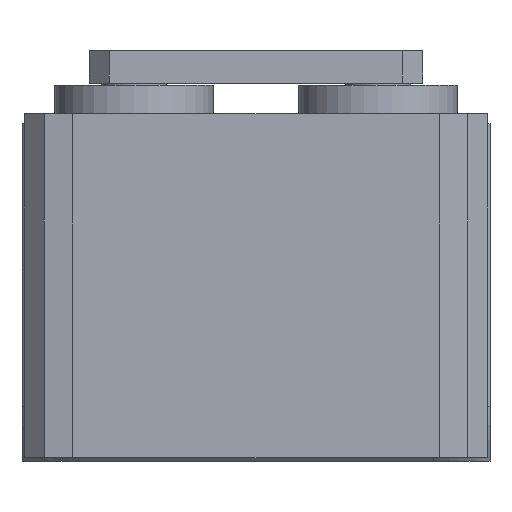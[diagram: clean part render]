
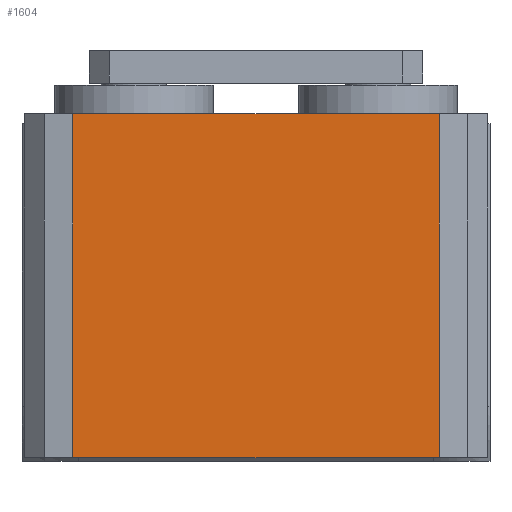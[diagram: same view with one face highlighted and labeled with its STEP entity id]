
A CAD part, top view. The second image highlights one B-rep face of the part: STEP entity #1604.
In plain terms, the highlighted planar face has unit normal (0, 0, 1).
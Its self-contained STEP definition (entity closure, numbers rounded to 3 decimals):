
#68=LINE('',#2359,#224);
#80=LINE('',#2390,#236);
#81=LINE('',#2392,#237);
#82=LINE('',#2393,#238);
#224=VECTOR('',#1918,90.);
#236=VECTOR('',#1944,84.5);
#237=VECTOR('',#1945,90.);
#238=VECTOR('',#1946,84.5);
#362=PLANE('',#1722);
#455=FACE_OUTER_BOUND('',#561,.T.);
#561=EDGE_LOOP('',(#1140,#1141,#1142,#1143));
#731=VERTEX_POINT('',#2356);
#732=VERTEX_POINT('',#2358);
#744=VERTEX_POINT('',#2389);
#745=VERTEX_POINT('',#2391);
#885=EDGE_CURVE('',#732,#731,#68,.T.);
#900=EDGE_CURVE('',#731,#744,#80,.T.);
#901=EDGE_CURVE('',#745,#744,#81,.T.);
#902=EDGE_CURVE('',#745,#732,#82,.T.);
#1140=ORIENTED_EDGE('',*,*,#900,.T.);
#1141=ORIENTED_EDGE('',*,*,#901,.F.);
#1142=ORIENTED_EDGE('',*,*,#902,.T.);
#1143=ORIENTED_EDGE('',*,*,#885,.T.);
#1604=ADVANCED_FACE('',(#455),#362,.F.);
#1722=AXIS2_PLACEMENT_3D('',#2388,#1942,#1943);
#1918=DIRECTION('',(1.,0.,0.));
#1942=DIRECTION('center_axis',(0.,0.,-1.));
#1943=DIRECTION('ref_axis',(1.,0.,0.));
#1944=DIRECTION('',(0.,1.,0.));
#1945=DIRECTION('',(1.,0.,0.));
#1946=DIRECTION('',(0.,-1.,0.));
#2356=CARTESIAN_POINT('',(45.,-82.2,80.));
#2358=CARTESIAN_POINT('',(-45.,-82.2,80.));
#2359=CARTESIAN_POINT('',(-45.,-82.2,80.));
#2388=CARTESIAN_POINT('Origin',(57.,0.3,80.));
#2389=CARTESIAN_POINT('',(45.,2.3,80.));
#2390=CARTESIAN_POINT('',(45.,-82.2,80.));
#2391=CARTESIAN_POINT('',(-45.,2.3,80.));
#2392=CARTESIAN_POINT('',(-45.,2.3,80.));
#2393=CARTESIAN_POINT('',(-45.,2.3,80.));
